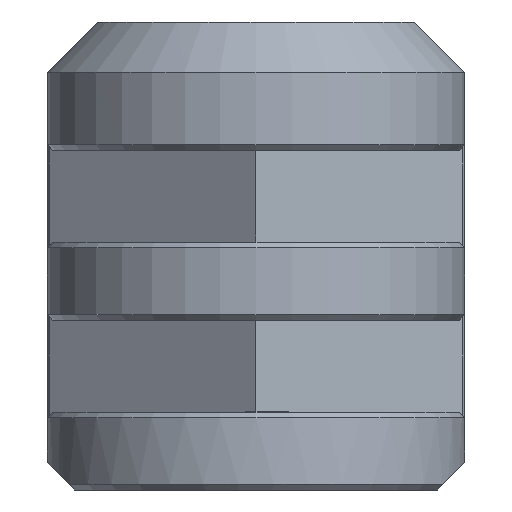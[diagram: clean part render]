
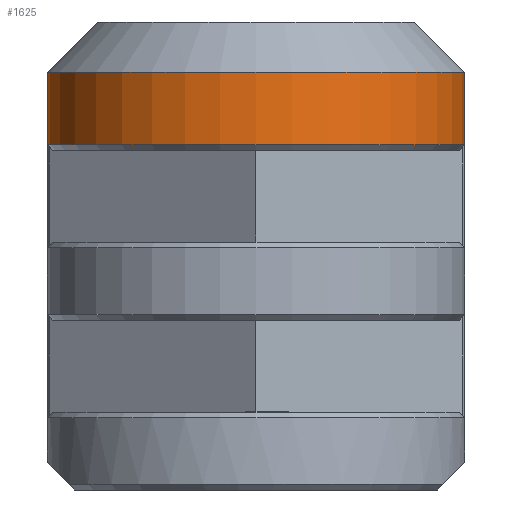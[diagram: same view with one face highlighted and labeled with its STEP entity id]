
A CAD part, left-side view. The second image highlights one B-rep face of the part: STEP entity #1625.
In plain terms, the highlighted cylindrical face has radius 7.5 mm (diameter 15 mm), a partial arc.
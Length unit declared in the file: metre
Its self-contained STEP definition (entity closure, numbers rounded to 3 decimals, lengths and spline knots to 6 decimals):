
#32=ELLIPSE('',#1742,0.010607,0.0075);
#33=ELLIPSE('',#1744,0.010607,0.0075);
#46=CIRCLE('',#1741,0.0075);
#47=CIRCLE('',#1743,0.0075);
#70=CYLINDRICAL_SURFACE('',#1740,0.0075);
#147=ORIENTED_EDGE('',*,*,#587,.T.);
#148=ORIENTED_EDGE('',*,*,#611,.T.);
#149=ORIENTED_EDGE('',*,*,#563,.F.);
#150=ORIENTED_EDGE('',*,*,#612,.T.);
#151=ORIENTED_EDGE('',*,*,#613,.T.);
#152=ORIENTED_EDGE('',*,*,#614,.T.);
#563=EDGE_CURVE('',#797,#798,#948,.T.);
#587=EDGE_CURVE('',#822,#821,#972,.T.);
#611=EDGE_CURVE('',#821,#798,#46,.F.);
#612=EDGE_CURVE('',#797,#841,#32,.F.);
#613=EDGE_CURVE('',#841,#842,#47,.F.);
#614=EDGE_CURVE('',#842,#822,#33,.T.);
#797=VERTEX_POINT('',#2341);
#798=VERTEX_POINT('',#2343);
#821=VERTEX_POINT('',#2390);
#822=VERTEX_POINT('',#2392);
#841=VERTEX_POINT('',#2442);
#842=VERTEX_POINT('',#2444);
#948=LINE('',#2342,#1145);
#972=LINE('',#2391,#1169);
#1145=VECTOR('',#1872,1.);
#1169=VECTOR('',#1898,1.);
#1336=EDGE_LOOP('',(#147,#148,#149,#150,#151,#152));
#1447=FACE_BOUND('',#1336,.T.);
#1625=ADVANCED_FACE('',(#1447),#70,.T.);
#1740=AXIS2_PLACEMENT_3D('',#2439,#1942,#1943);
#1741=AXIS2_PLACEMENT_3D('',#2440,#1944,#1945);
#1742=AXIS2_PLACEMENT_3D('',#2441,#1946,#1947);
#1743=AXIS2_PLACEMENT_3D('',#2443,#1948,#1949);
#1744=AXIS2_PLACEMENT_3D('',#2445,#1950,#1951);
#1872=DIRECTION('',(0.,0.,-1.));
#1898=DIRECTION('',(0.,0.,-1.));
#1942=DIRECTION('',(0.,0.,-1.));
#1943=DIRECTION('',(-1.,0.,0.));
#1944=DIRECTION('',(0.,0.,-1.));
#1945=DIRECTION('',(-1.,0.,0.));
#1946=DIRECTION('',(0.,0.707,-0.707));
#1947=DIRECTION('',(0.,-0.707,-0.707));
#1948=DIRECTION('',(0.,0.,1.));
#1949=DIRECTION('',(1.,0.,0.));
#1950=DIRECTION('',(0.,0.707,0.707));
#1951=DIRECTION('',(0.,0.707,-0.707));
#2341=CARTESIAN_POINT('',(-0.105,-0.0075,0.014));
#2342=CARTESIAN_POINT('',(-0.105,-0.0075,0.015));
#2343=CARTESIAN_POINT('',(-0.105,-0.0075,0.0124));
#2390=CARTESIAN_POINT('',(-0.105,0.0075,0.0124));
#2391=CARTESIAN_POINT('',(-0.105,0.0075,0.015));
#2392=CARTESIAN_POINT('',(-0.105,0.0075,0.014));
#2439=CARTESIAN_POINT('',(-0.105,0.,0.015));
#2440=CARTESIAN_POINT('',(-0.105,0.,0.0124));
#2441=CARTESIAN_POINT('',(-0.105,0.,0.0215));
#2442=CARTESIAN_POINT('',(-0.101258,-0.0065,0.015));
#2443=CARTESIAN_POINT('',(-0.105,0.,0.015));
#2444=CARTESIAN_POINT('',(-0.101258,0.0065,0.015));
#2445=CARTESIAN_POINT('',(-0.105,0.,0.0215));
